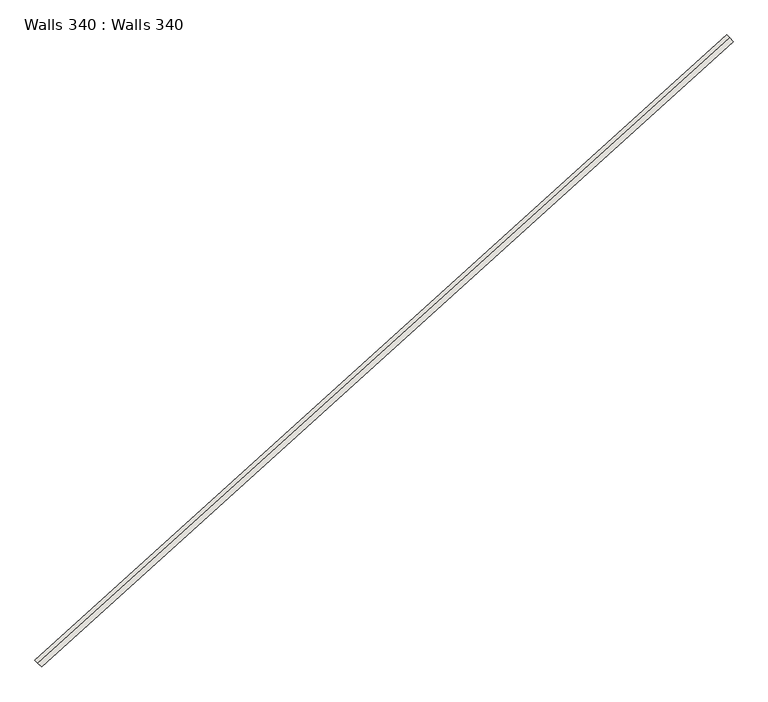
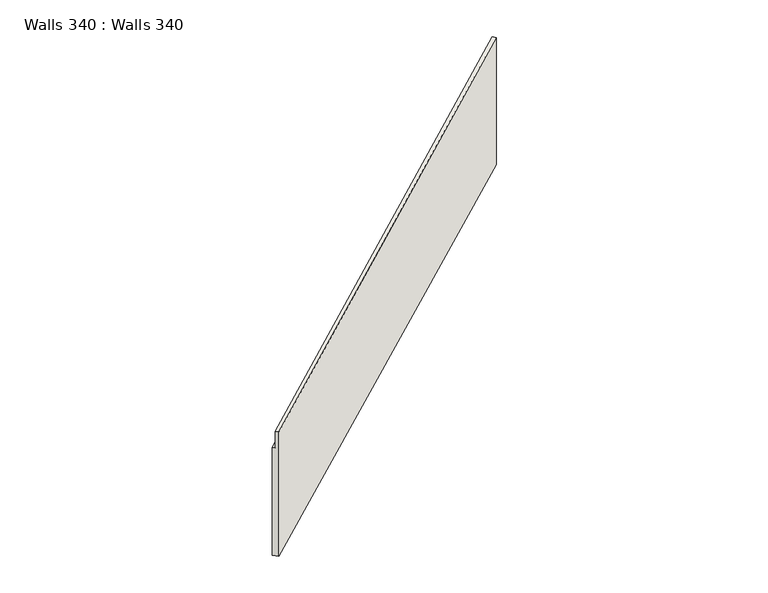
"""IFC4 building model written with IfcOpenShell, lengths in millimetres: wall geometry, Walls 340 : Walls 340."""

from ifc_helpers import new_model, si_unit, origin, place, context, project, spatial, faceted_brep, source, transform, mapped, element, save


def walls_340_walls_340_7add441a(model_context):
    return source(origin(), model_context, "Body", "Brep", [
        faceted_brep([(90066.6527194, -16327.8634612, 647621.0), (90066.6527194, -16327.8634612, 639913.0), (89831.9681821, -16068.2037455, 639913.0), (89831.9681821, -16068.2037455, 646621.0), (89932.5472695, -16179.4864808, 646621.0), (89932.5472695, -16179.4864808, 647621.0), (63903.5956549, -39704.8625614, 647082.2131171), (64051.4287719, -39840.8322602, 647082.4972733), (63903.5956549, -39704.8625614, 646082.2131171), (63792.7208171, -39602.8852873, 646082.0), (63792.7208171, -39602.8852873, 639535.0), (64051.4287719, -39840.8322602, 639535.3487371)], [[[0, 1, 2, 3, 4, 5]], [[0, 5, 6, 7]], [[5, 4, 8, 6]], [[4, 3, 9, 8]], [[3, 2, 10, 9]], [[2, 1, 11, 10]], [[1, 0, 7, 11]], [[7, 6, 8, 9, 10, 11]]]),
    ])


if __name__ == "__main__":
    model = new_model("IFC4")
    model_context = context("Model", 3, world=origin())
    ifc_project = project(units=[si_unit("LENGTHUNIT", "METRE", prefix="MILLI")], contexts=[model_context])
    site = spatial("IfcSite", under=ifc_project)
    building = spatial("IfcBuilding", under=site)
    placement = place(None, origin())
    walls_340_walls_340_shape = walls_340_walls_340_7add441a(model_context)
    element("IfcWall", 1, ObjectType="Walls 340 : Walls 340", at=placement, inside=building, context=model_context, shape_type="MappedRepresentation", body=[
        mapped(walls_340_walls_340_shape, transform((0.0, 0.0, 0.0), x_axis=(1.0, 0.0, 0.0), y_axis=(0.0, 1.0, 0.0), z_axis=(0.0, 0.0, 1.0))),
    ])
    save(model, "model.ifc")
